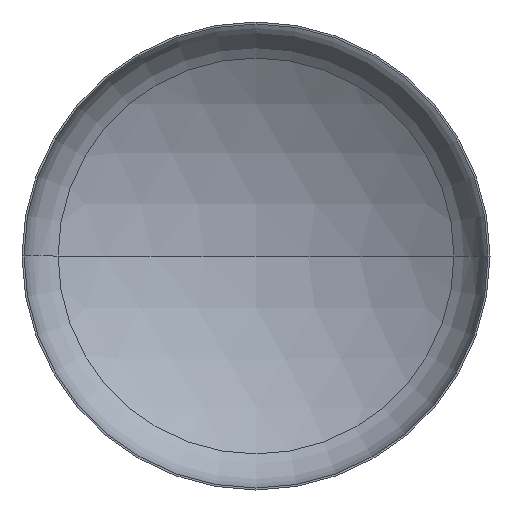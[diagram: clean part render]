
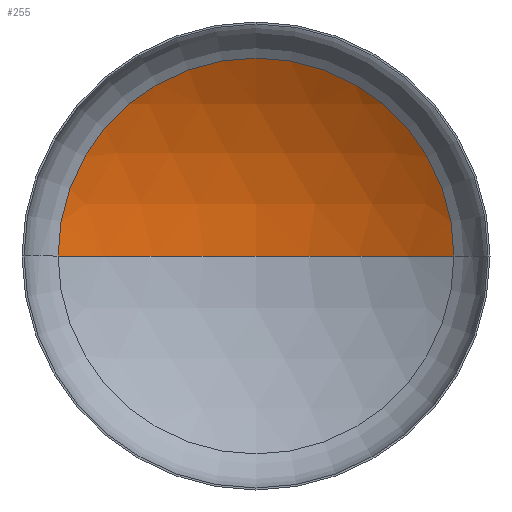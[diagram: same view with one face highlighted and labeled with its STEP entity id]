
A CAD part, front view. The second image highlights one B-rep face of the part: STEP entity #255.
In plain terms, the highlighted spherical face has radius 3600 mm.
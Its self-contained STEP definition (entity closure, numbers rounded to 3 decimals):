
#14 = EDGE_LOOP ( 'NONE', ( #36, #320, #121 ) ) ;
#21 = AXIS2_PLACEMENT_3D ( 'NONE', #96, #141, #149 ) ;
#29 = VERTEX_POINT ( 'NONE', #291 ) ;
#36 = ORIENTED_EDGE ( 'NONE', *, *, #351, .F. ) ;
#38 = VERTEX_POINT ( 'NONE', #285 ) ;
#61 = VERTEX_POINT ( 'NONE', #260 ) ;
#62 = AXIS2_PLACEMENT_3D ( 'NONE', #375, #197, #177 ) ;
#71 = AXIS2_PLACEMENT_3D ( 'NONE', #236, #396, #267 ) ;
#84 = AXIS2_PLACEMENT_3D ( 'NONE', #217, #196, #264 ) ;
#96 = CARTESIAN_POINT ( 'NONE',  ( 0., 649.903, 0. ) ) ;
#121 = ORIENTED_EDGE ( 'NONE', *, *, #360, .T. ) ;
#141 = DIRECTION ( 'NONE',  ( 0., -1., 0. ) ) ;
#149 = DIRECTION ( 'NONE',  ( 1., 0., 0. ) ) ;
#173 = SPHERICAL_SURFACE ( 'NONE', #84, 3600. ) ;
#177 = DIRECTION ( 'NONE',  ( 1., 0., 0. ) ) ;
#196 = DIRECTION ( 'NONE',  ( 0., 0., -1. ) ) ;
#197 = DIRECTION ( 'NONE',  ( 0., 0., 1. ) ) ;
#214 = CIRCLE ( 'NONE', #21, 1903.477 ) ;
#217 = CARTESIAN_POINT ( 'NONE',  ( 0., -2405.711, 0. ) ) ;
#236 = CARTESIAN_POINT ( 'NONE',  ( 0., -2405.711, 0. ) ) ;
#255 = ADVANCED_FACE ( 'NONE', ( #292 ), #173, .F. ) ;
#260 = CARTESIAN_POINT ( 'NONE',  ( 1903.477, 649.903, 0. ) ) ;
#264 = DIRECTION ( 'NONE',  ( -1., 0., 0. ) ) ;
#267 = DIRECTION ( 'NONE',  ( -1., 0., 0. ) ) ;
#285 = CARTESIAN_POINT ( 'NONE',  ( 0., 1194.289, 0. ) ) ;
#291 = CARTESIAN_POINT ( 'NONE',  ( -1903.477, 649.903, 0. ) ) ;
#292 = FACE_OUTER_BOUND ( 'NONE', #14, .T. ) ;
#320 = ORIENTED_EDGE ( 'NONE', *, *, #346, .T. ) ;
#332 = CIRCLE ( 'NONE', #62, 3600. ) ;
#346 = EDGE_CURVE ( 'NONE', #38, #61, #389, .T. ) ;
#351 = EDGE_CURVE ( 'NONE', #38, #29, #332, .T. ) ;
#360 = EDGE_CURVE ( 'NONE', #61, #29, #214, .T. ) ;
#375 = CARTESIAN_POINT ( 'NONE',  ( 0., -2405.711, 0. ) ) ;
#389 = CIRCLE ( 'NONE', #71, 3600. ) ;
#396 = DIRECTION ( 'NONE',  ( 0., 0., -1. ) ) ;
